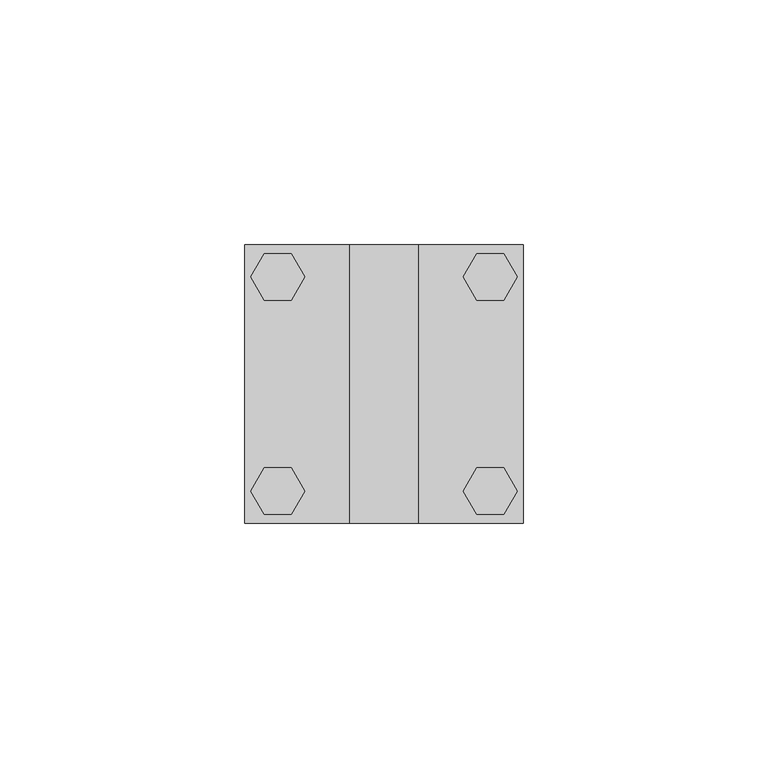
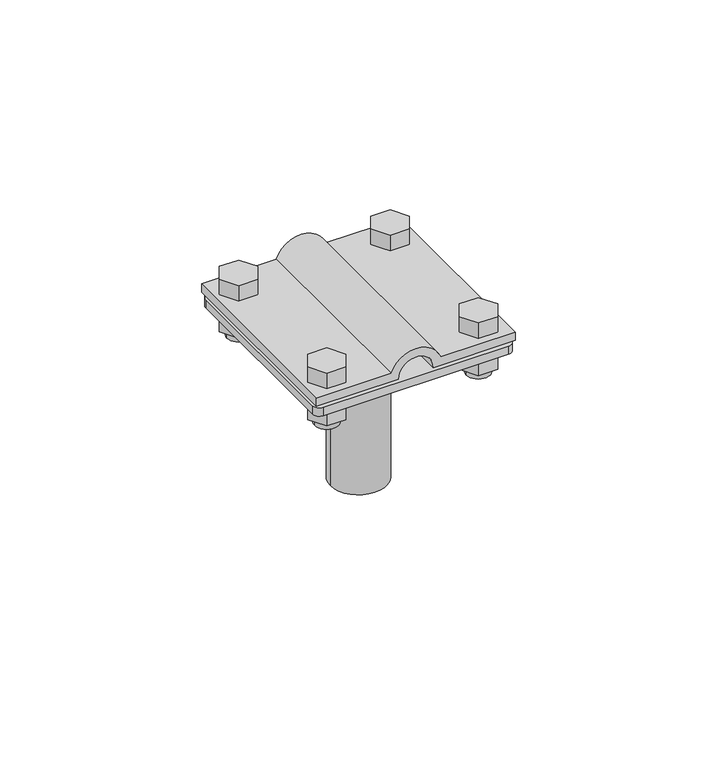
"""IFC4 building model written with IfcOpenShell, lengths in millimetres: proxy geometry, КНС_СоединительПроводникаДляМолниеприемника_DKC : NG6606_Горячеоцинкованная сталь."""

import ifcopenshell
import ifcopenshell.guid

model = None  # the IFC model being written
_history = None  # IfcOwnerHistory: only IFC2X3 demands one
_inside = {}  # id of a spatial element -> (the spatial element, [elements in it])
_under = {}  # id of a project, library or spatial element -> (it, [spatial elements below it])
_declared = {}  # id of a project -> (the project, [libraries it declares])
_typed = {}  # id of a type object -> (the type object, [elements of that type])
_made_of = {}  # id of a material, layer set ... -> (it, [elements and type objects made of it])


def new_model(schema):
    """Start an empty IFC model of exactly this schema.

    Asked for "IFC4X3", IfcOpenShell would pick the latest addendum, in which some entities
    have other attributes; the version numbers below select the first issue.
    IFC2X3 requires an IfcOwnerHistory on every rooted entity: one is made here for all.
    """
    global model, _history
    if schema == "IFC4X3":
        model = ifcopenshell.file(schema_version=(4, 3, 0, 0))
    else:
        model = ifcopenshell.file(schema=schema)
    _inside.clear()
    _under.clear()
    _declared.clear()
    _typed.clear()
    _made_of.clear()
    _history = None
    if model.schema == "IFC2X3":
        org = make("IfcOrganization", Name="unknown")
        user = make(
            "IfcPersonAndOrganization",
            ThePerson=make("IfcPerson", FamilyName="unknown"),
            TheOrganization=org,
        )
        app = make(
            "IfcApplication",
            ApplicationDeveloper=org,
            Version="unknown",
            ApplicationFullName="unknown",
            ApplicationIdentifier="unknown",
        )
        _history = make(
            "IfcOwnerHistory",
            OwningUser=user,
            OwningApplication=app,
            ChangeAction="ADDED",
            CreationDate=0,
        )
    return model


def make(cls, **values):
    """One entity of the class cls with the attributes given. An attribute that is None is left unset."""
    return model.create_entity(
        cls, **{name: value for name, value in values.items() if value is not None}
    )


def rooted(cls, **values):
    """An entity with a GlobalId (a new one), such as an element, a storey or a relation."""
    return make(cls, GlobalId=ifcopenshell.guid.new(), OwnerHistory=_history, **values)


def si_unit(unit_type, name, prefix=None):
    """IfcSIUnit, for example si_unit("LENGTHUNIT", "METRE", prefix="MILLI")."""
    return make("IfcSIUnit", UnitType=unit_type, Prefix=prefix, Name=name)


def assignment(units):
    """IfcUnitAssignment: the units of a project."""
    return None if units is None else make("IfcUnitAssignment", Units=units)


def point(xyz):
    """IfcCartesianPoint."""
    return None if xyz is None else make("IfcCartesianPoint", Coordinates=xyz)


def direction(xyz):
    """IfcDirection."""
    return None if xyz is None else make("IfcDirection", DirectionRatios=xyz)


def frame(location, z_axis=None, x_axis=None):
    """IfcAxis2Placement3D, a coordinate frame: its origin and axes. An axis left out is left unset."""
    return make(
        "IfcAxis2Placement3D",
        Location=point(location),
        Axis=direction(z_axis),
        RefDirection=direction(x_axis),
    )


def frame_2d(location, x_axis=None):
    """IfcAxis2Placement2D, a coordinate frame in the plane: its origin and x axis."""
    return make(
        "IfcAxis2Placement2D", Location=point(location), RefDirection=direction(x_axis)
    )


def origin():
    """The frame at (0, 0, 0) with its axes left unset."""
    return frame((0.0, 0.0, 0.0))


def origin_2d():
    """The frame at (0, 0) in the plane with its x axis left unset."""
    return frame_2d((0.0, 0.0))


def place(relative_to, where):
    """IfcLocalPlacement: puts the frame where relative to a parent placement (None: the world)."""
    return make(
        "IfcLocalPlacement", PlacementRelTo=relative_to, RelativePlacement=where
    )


def context(
    kind, dimensions, precision=None, world=None, true_north=None, identifier=None
):
    """IfcGeometricRepresentationContext, for example the 3D "Model" context."""
    return make(
        "IfcGeometricRepresentationContext",
        ContextIdentifier=identifier,
        ContextType=kind,
        CoordinateSpaceDimension=dimensions,
        Precision=precision,
        WorldCoordinateSystem=world,
        TrueNorth=true_north,
    )


def project(units=None, contexts=None):
    """IfcProject with its units and contexts."""
    return rooted(
        "IfcProject",
        Name="project",
        RepresentationContexts=contexts,
        UnitsInContext=assignment(units),
    )


def spatial(cls, under=None, at=None, **own):
    """A site, building, storey or space (cls), placed at a placement, below another one or the project."""
    s = rooted(cls, ObjectPlacement=at, **own)
    if under is not None:
        _under.setdefault(under.id(), (under, []))[1].append(s)
    return s


def polyline(points):
    """IfcPolyline through the points."""
    return make("IfcPolyline", Points=[point(p) for p in points])


def circle_curve(where, radius):
    """IfcCircle in the frame where."""
    return make("IfcCircle", Position=where, Radius=radius)


def trimmed(basis, trim1, trim2, sense, master):
    """IfcTrimmedCurve: the piece of a basis curve between two trims."""
    return make(
        "IfcTrimmedCurve",
        BasisCurve=basis,
        Trim1=trim1,
        Trim2=trim2,
        SenseAgreement=sense,
        MasterRepresentation=master,
    )


def segment(curve, same_sense, transition):
    """IfcCompositeCurveSegment."""
    return make(
        "IfcCompositeCurveSegment",
        Transition=transition,
        SameSense=same_sense,
        ParentCurve=curve,
    )


def composite_curve(segments, self_intersect=None):
    """IfcCompositeCurve: segments joined end to end."""
    return make("IfcCompositeCurve", Segments=segments, SelfIntersect=self_intersect)


def outline(outer, holes=None, kind="AREA"):
    """IfcArbitraryClosedProfileDef: a profile drawn as a closed curve; with holes, ...WithVoids."""
    if holes is None:
        return make("IfcArbitraryClosedProfileDef", ProfileType=kind, OuterCurve=outer)
    return make(
        "IfcArbitraryProfileDefWithVoids",
        ProfileType=kind,
        OuterCurve=outer,
        InnerCurves=holes,
    )


def extrude(swept, where, along, depth):
    """IfcExtrudedAreaSolid: the profile swept, set in the frame where, extruded along a direction by depth."""
    return make(
        "IfcExtrudedAreaSolid",
        SweptArea=swept,
        Position=where,
        ExtrudedDirection=direction(along),
        Depth=depth,
    )


def shape(context_of_items, identifier, shape_type, items):
    """IfcShapeRepresentation: the items that make up one representation, for example the "Body"."""
    return make(
        "IfcShapeRepresentation",
        ContextOfItems=context_of_items,
        RepresentationIdentifier=identifier,
        RepresentationType=shape_type,
        Items=items,
    )


def source(mapping_origin, context_of_items, identifier, shape_type, items):
    """IfcRepresentationMap: a shape defined once, which mapped items show again and again."""
    return make(
        "IfcRepresentationMap",
        MappingOrigin=mapping_origin,
        MappedRepresentation=shape(context_of_items, identifier, shape_type, items),
    )


def transform(
    local_origin,
    x_axis=None,
    y_axis=None,
    z_axis=None,
    scale=None,
    scale2=None,
    scale3=None,
    uniform=True,
):
    """IfcCartesianTransformationOperator3D, or its non-uniform kind. x_axis, y_axis, z_axis: its Axis1, 2, 3."""
    if uniform:
        return make(
            "IfcCartesianTransformationOperator3D",
            Axis1=direction(x_axis),
            Axis2=direction(y_axis),
            LocalOrigin=point(local_origin),
            Scale=scale,
            Axis3=direction(z_axis),
        )
    return make(
        "IfcCartesianTransformationOperator3DnonUniform",
        Axis1=direction(x_axis),
        Axis2=direction(y_axis),
        LocalOrigin=point(local_origin),
        Scale=scale,
        Axis3=direction(z_axis),
        Scale2=scale2,
        Scale3=scale3,
    )


def mapped(mapping_source, mapping_target):
    """IfcMappedItem: shows the shape of a source again, moved by a transform."""
    return make(
        "IfcMappedItem", MappingSource=mapping_source, MappingTarget=mapping_target
    )


def made_of(thing, what):
    """Note that an element or type object is made of a material, layer set ...; save() writes the relation."""
    if what is not None:
        _made_of.setdefault(what.id(), (what, []))[1].append(thing)
    return thing


def element(
    cls,
    number,
    at=None,
    inside=None,
    cuts=None,
    type_object=None,
    material=None,
    context=None,
    identifier="Body",
    shape_type=None,
    held_by="IfcProductDefinitionShape",
    body=None,
    shapes=None,
    **own,
):
    """One element of the class cls, such as IfcWall. Its Tag is "e" and its number.

    at: its placement. inside: the storey or other place that contains it. cuts: it is an
    opening in that element (IfcRelVoidsElement). A single representation is given by context,
    identifier, shape_type and body (its items); several are given by shapes. held_by: the class
    of the entity that holds the representations. save() writes the other relations.
    """
    e = rooted(cls, Tag="e%d" % number, ObjectPlacement=at, **own)
    if body is not None:
        shapes = [shape(context, identifier, shape_type, body)]
    if shapes is not None:
        e.Representation = make(held_by, Representations=shapes)
    if inside is not None:
        _inside.setdefault(inside.id(), (inside, []))[1].append(e)
    if cuts is not None:
        rooted(
            "IfcRelVoidsElement", RelatingBuildingElement=cuts, RelatedOpeningElement=e
        )
    if type_object is not None:
        _typed.setdefault(type_object.id(), (type_object, []))[1].append(e)
    return made_of(e, material)


def aggregate(whole, parts):
    """IfcRelAggregates: a whole, such as a stair, and the parts it consists of."""
    return rooted("IfcRelAggregates", RelatingObject=whole, RelatedObjects=parts)


def save(model, path):
    """Write the relations noted so far, then the file.

    IfcRelAggregates (storeys below a building ...), IfcRelContainedInSpatialStructure (elements
    in a storey), IfcRelDefinesByType, IfcRelAssociatesMaterial and IfcRelDeclares: one each for
    every whole, place, type object, material and project.
    """
    for whole, parts in _under.values():
        aggregate(whole, parts)
    for where, things in _inside.values():
        rooted(
            "IfcRelContainedInSpatialStructure",
            RelatedElements=things,
            RelatingStructure=where,
        )
    for kind, things in _typed.values():
        rooted("IfcRelDefinesByType", RelatedObjects=things, RelatingType=kind)
    for what, things in _made_of.values():
        rooted("IfcRelAssociatesMaterial", RelatedObjects=things, RelatingMaterial=what)
    for by, libraries in _declared.values():
        rooted("IfcRelDeclares", RelatingContext=by, RelatedDefinitions=libraries)
    model.write(path)


def security_devices_0e7c5410(model_context):
    return source(origin(), model_context, "Body", "SweptSolid", [
        extrude(outline(composite_curve([segment(trimmed(circle_curve(origin_2d(), 8.0), [point((-8.0, 0.0))], [point((8.0, 0.0))], False, "CARTESIAN"), True, "CONTINUOUS"), segment(trimmed(circle_curve(origin_2d(), 8.0), [point((8.0, 0.0))], [point((-8.0, 0.0))], False, "CARTESIAN"), True, "CONTINUOUS")], self_intersect=False)), frame((0.0, 0.0, -47.5), z_axis=(0.0, 0.0, 1.0), x_axis=(1.0, 0.0, 0.0)), (0.0, 0.0, 1.0), 45.0),
        extrude(outline(composite_curve([segment(polyline([(3.5, -28.5), (1.0, -28.5), (1.0, -5.0)]), True, "CONTINUOUS"), segment(trimmed(circle_curve(frame_2d((1.0, 0.0)), 5.0), [point((1.0, -5.0))], [point((1.0, 5.0))], True, "CARTESIAN"), True, "CONTINUOUS"), segment(polyline([(1.0, 5.0), (1.0, 28.5), (3.5, 28.5), (3.5, 7.0710678)]), True, "CONTINUOUS"), segment(trimmed(circle_curve(frame_2d((1.0, 0.0)), 7.5), [point((3.5, 7.0710678))], [point((3.5, -7.0710678))], False, "CARTESIAN"), True, "CONTINUOUS"), segment(polyline([(3.5, -7.0710678), (3.5, -28.5)]), True, "CONTINUOUS")], self_intersect=False)), frame((0.0, -28.5, 0.0), z_axis=(0.0, 1.0, 0.0), x_axis=(0.0, 0.0, 1.0)), (0.0, 0.0, 1.0), 57.0),
        extrude(outline(composite_curve([segment(trimmed(circle_curve(frame_2d((-21.7121057, 21.78125)), 3.4209609), [point((-25.1330666, 21.78125))], [point((-18.2911448, 21.78125))], False, "CARTESIAN"), True, "CONTINUOUS"), segment(trimmed(circle_curve(frame_2d((-21.7121057, 21.78125)), 3.4209609), [point((-18.2911448, 21.78125))], [point((-25.1330666, 21.78125))], False, "CARTESIAN"), True, "CONTINUOUS")], self_intersect=False)), frame((0.0, 0.0, -10.0), z_axis=(0.0, 0.0, 1.0), x_axis=(1.0, 0.0, 0.0)), (0.0, 0.0, 1.0), 13.5),
        extrude(outline(composite_curve([segment(trimmed(circle_curve(frame_2d((21.7121057, 21.78125)), 3.4209609), [point((18.2911448, 21.78125))], [point((25.1330666, 21.78125))], False, "CARTESIAN"), True, "CONTINUOUS"), segment(trimmed(circle_curve(frame_2d((21.7121057, 21.78125)), 3.4209609), [point((25.1330666, 21.78125))], [point((18.2911448, 21.78125))], False, "CARTESIAN"), True, "CONTINUOUS")], self_intersect=False)), frame((0.0, 0.0, -10.0), z_axis=(0.0, 0.0, 1.0), x_axis=(1.0, 0.0, 0.0)), (0.0, 0.0, 1.0), 13.5),
        extrude(outline(composite_curve([segment(trimmed(circle_curve(frame_2d((-21.7121057, -21.78125)), 3.4209609), [point((-25.1330666, -21.78125))], [point((-18.2911448, -21.78125))], False, "CARTESIAN"), True, "CONTINUOUS"), segment(trimmed(circle_curve(frame_2d((-21.7121057, -21.78125)), 3.4209609), [point((-18.2911448, -21.78125))], [point((-25.1330666, -21.78125))], False, "CARTESIAN"), True, "CONTINUOUS")], self_intersect=False)), frame((0.0, 0.0, -10.0), z_axis=(0.0, 0.0, 1.0), x_axis=(1.0, 0.0, 0.0)), (0.0, 0.0, 1.0), 13.5),
        extrude(outline(composite_curve([segment(trimmed(circle_curve(frame_2d((21.7121057, -21.78125)), 3.4209609), [point((18.2911448, -21.78125))], [point((25.1330666, -21.78125))], False, "CARTESIAN"), True, "CONTINUOUS"), segment(trimmed(circle_curve(frame_2d((21.7121057, -21.78125)), 3.4209609), [point((25.1330666, -21.78125))], [point((18.2911448, -21.78125))], False, "CARTESIAN"), True, "CONTINUOUS")], self_intersect=False)), frame((0.0, 0.0, -10.0), z_axis=(0.0, 0.0, 1.0), x_axis=(1.0, 0.0, 0.0)), (0.0, 0.0, 1.0), 13.5),
        extrude(outline(polyline([(-27.1996224, 21.8883083), (-24.455864, 26.6406371), (-18.9683473, 26.6406371), (-16.224589, 21.8883083), (-18.9683473, 17.1359794), (-24.455864, 17.1359794), (-27.1996224, 21.8883083)])), frame((0.0, 0.0, -7.5), z_axis=(0.0, 0.0, 1.0), x_axis=(1.0, 0.0, 0.0)), (0.0, 0.0, 1.0), 5.0),
        extrude(outline(polyline([(27.1996224, 21.8883083), (24.455864, 17.1359794), (18.9683473, 17.1359794), (16.224589, 21.8883083), (18.9683473, 26.6406371), (24.455864, 26.6406371), (27.1996224, 21.8883083)])), frame((0.0, 0.0, -7.5), z_axis=(0.0, 0.0, 1.0), x_axis=(1.0, 0.0, 0.0)), (0.0, 0.0, 1.0), 5.0),
        extrude(outline(polyline([(-27.1996224, -21.8883083), (-24.455864, -17.1359794), (-18.9683473, -17.1359794), (-16.224589, -21.8883083), (-18.9683473, -26.6406371), (-24.455864, -26.6406371), (-27.1996224, -21.8883083)])), frame((0.0, 0.0, -7.5), z_axis=(0.0, 0.0, 1.0), x_axis=(1.0, 0.0, 0.0)), (0.0, 0.0, 1.0), 5.0),
        extrude(outline(polyline([(27.1996224, -21.8883083), (24.455864, -26.6406371), (18.9683473, -26.6406371), (16.224589, -21.8883083), (18.9683473, -17.1359794), (24.455864, -17.1359794), (27.1996224, -21.8883083)])), frame((0.0, 0.0, -7.5), z_axis=(0.0, 0.0, 1.0), x_axis=(1.0, 0.0, 0.0)), (0.0, 0.0, 1.0), 5.0),
        extrude(outline(polyline([(-27.1996224, 21.8883083), (-24.455864, 26.6406371), (-18.9683473, 26.6406371), (-16.224589, 21.8883083), (-18.9683473, 17.1359794), (-24.455864, 17.1359794), (-27.1996224, 21.8883083)])), frame((0.0, 0.0, 3.5), z_axis=(0.0, 0.0, 1.0), x_axis=(1.0, 0.0, 0.0)), (0.0, 0.0, 1.0), 5.0),
        extrude(outline(polyline([(27.1996224, 21.8883083), (24.455864, 17.1359794), (18.9683473, 17.1359794), (16.224589, 21.8883083), (18.9683473, 26.6406371), (24.455864, 26.6406371), (27.1996224, 21.8883083)])), frame((0.0, 0.0, 3.5), z_axis=(0.0, 0.0, 1.0), x_axis=(1.0, 0.0, 0.0)), (0.0, 0.0, 1.0), 5.0),
        extrude(outline(polyline([(-27.1996224, -21.8883083), (-24.455864, -17.1359794), (-18.9683473, -17.1359794), (-16.224589, -21.8883083), (-18.9683473, -26.6406371), (-24.455864, -26.6406371), (-27.1996224, -21.8883083)])), frame((0.0, 0.0, 3.5), z_axis=(0.0, 0.0, 1.0), x_axis=(1.0, 0.0, 0.0)), (0.0, 0.0, 1.0), 5.0),
        extrude(outline(polyline([(27.1996224, -21.8883083), (24.455864, -26.6406371), (18.9683473, -26.6406371), (16.224589, -21.8883083), (18.9683473, -17.1359794), (24.455864, -17.1359794), (27.1996224, -21.8883083)])), frame((0.0, 0.0, 3.5), z_axis=(0.0, 0.0, 1.0), x_axis=(1.0, 0.0, 0.0)), (0.0, 0.0, 1.0), 5.0),
        extrude(outline(composite_curve([segment(trimmed(circle_curve(frame_2d((26.5, 26.5)), 2.0), [point((26.5, 28.5))], [point((28.5, 26.5))], False, "CARTESIAN"), True, "CONTINUOUS"), segment(polyline([(28.5, 26.5), (28.5, -26.5)]), True, "CONTINUOUS"), segment(trimmed(circle_curve(frame_2d((26.5, -26.5)), 2.0), [point((28.5, -26.5))], [point((26.5, -28.5))], False, "CARTESIAN"), True, "CONTINUOUS"), segment(polyline([(26.5, -28.5), (-26.5, -28.5)]), True, "CONTINUOUS"), segment(trimmed(circle_curve(frame_2d((-26.5, -26.5)), 2.0), [point((-26.5, -28.5))], [point((-28.5, -26.5))], False, "CARTESIAN"), True, "CONTINUOUS"), segment(polyline([(-28.5, -26.5), (-28.5, 26.5)]), True, "CONTINUOUS"), segment(trimmed(circle_curve(frame_2d((-26.5, 26.5)), 2.0), [point((-28.5, 26.5))], [point((-26.5, 28.5))], False, "CARTESIAN"), True, "CONTINUOUS"), segment(polyline([(-26.5, 28.5), (26.5, 28.5)]), True, "CONTINUOUS")], self_intersect=False)), frame((0.0, 0.0, -2.5), z_axis=(0.0, 0.0, 1.0), x_axis=(1.0, 0.0, 0.0)), (0.0, 0.0, 1.0), 2.5),
    ])


if __name__ == "__main__":
    model = new_model("IFC4")
    model_context = context("Model", 3, world=origin())
    ifc_project = project(units=[si_unit("LENGTHUNIT", "METRE", prefix="MILLI")], contexts=[model_context])
    site = spatial("IfcSite", under=ifc_project)
    building = spatial("IfcBuilding", under=site)
    placement = place(None, origin())
    security_devices_shape = security_devices_0e7c5410(model_context)
    element("IfcBuildingElementProxy", 1, Name="КНС_СоединительПроводникаДляМолниеприемника_DKC : NG6606_Горячеоцинкованная сталь", ObjectType="КНС_СоединительПроводникаДляМолниеприемника_DKC : NG6606_Горячеоцинкованная сталь", at=placement, inside=building, context=model_context, shape_type="MappedRepresentation", body=[
        mapped(security_devices_shape, transform((0.0, 0.0, 0.0), x_axis=(1.0, 0.0, 0.0), y_axis=(0.0, 1.0, 0.0), z_axis=(0.0, 0.0, 1.0))),
    ])
    save(model, "model.ifc")
